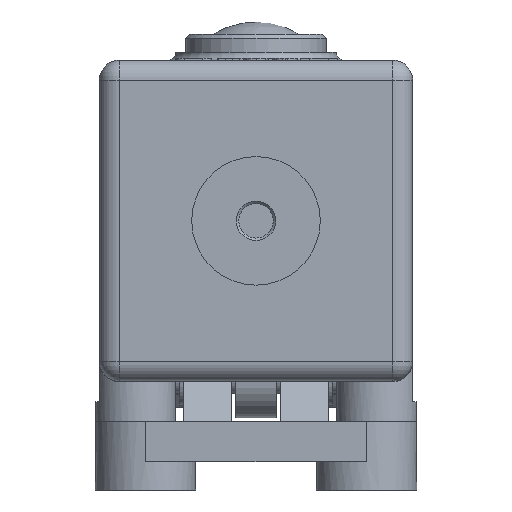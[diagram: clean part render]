
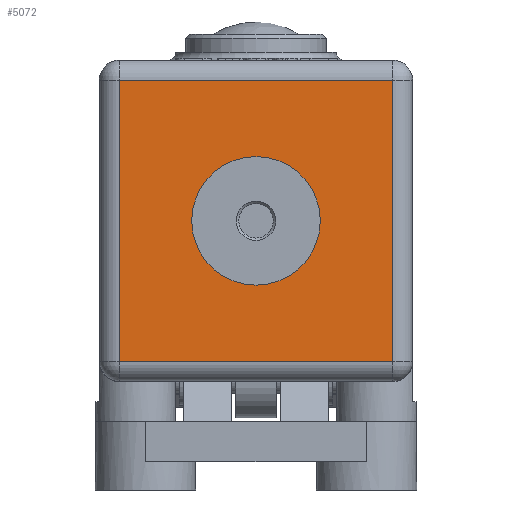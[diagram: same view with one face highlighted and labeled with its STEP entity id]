
A CAD part, front view. The second image highlights one B-rep face of the part: STEP entity #5072.
In plain terms, the highlighted planar face has unit normal (0, -1, 0).
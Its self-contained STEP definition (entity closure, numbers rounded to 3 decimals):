
#102=FACE_BOUND('',#908,.T.);
#327=PLANE('',#5503);
#593=FACE_OUTER_BOUND('',#907,.T.);
#907=EDGE_LOOP('',(#4295,#4296,#4297,#4298));
#908=EDGE_LOOP('',(#4299));
#1316=LINE('',#8772,#1738);
#1324=LINE('',#8847,#1746);
#1325=LINE('',#8849,#1747);
#1327=LINE('',#8852,#1749);
#1738=VECTOR('',#6627,10.);
#1746=VECTOR('',#6701,10.);
#1747=VECTOR('',#6704,10.);
#1749=VECTOR('',#6708,10.);
#1906=CIRCLE('',#5426,16.);
#2335=VERTEX_POINT('',#8549);
#2373=VERTEX_POINT('',#8733);
#2376=VERTEX_POINT('',#8754);
#2378=VERTEX_POINT('',#8775);
#2382=VERTEX_POINT('',#8801);
#2959=EDGE_CURVE('',#2335,#2335,#1906,.T.);
#3015=EDGE_CURVE('',#2373,#2376,#1316,.T.);
#3043=EDGE_CURVE('',#2376,#2382,#1324,.T.);
#3044=EDGE_CURVE('',#2382,#2378,#1325,.T.);
#3046=EDGE_CURVE('',#2378,#2373,#1327,.T.);
#4295=ORIENTED_EDGE('',*,*,#3015,.F.);
#4296=ORIENTED_EDGE('',*,*,#3046,.F.);
#4297=ORIENTED_EDGE('',*,*,#3044,.F.);
#4298=ORIENTED_EDGE('',*,*,#3043,.F.);
#4299=ORIENTED_EDGE('',*,*,#2959,.T.);
#5072=ADVANCED_FACE('',(#593,#102),#327,.F.);
#5426=AXIS2_PLACEMENT_3D('',#8551,#6519,#6520);
#5503=AXIS2_PLACEMENT_3D('',#8853,#6709,#6710);
#6519=DIRECTION('center_axis',(0.,1.,0.));
#6520=DIRECTION('ref_axis',(0.,0.,-1.));
#6627=DIRECTION('',(-1.,0.,0.));
#6701=DIRECTION('',(0.,0.,1.));
#6704=DIRECTION('',(1.,0.,0.));
#6708=DIRECTION('',(0.,0.,-1.));
#6709=DIRECTION('center_axis',(0.,1.,0.));
#6710=DIRECTION('ref_axis',(0.,0.,-1.));
#8549=CARTESIAN_POINT('',(-30.063,-111.419,24.75));
#8551=CARTESIAN_POINT('Origin',(-30.063,-111.419,8.75));
#8733=CARTESIAN_POINT('',(3.937,-111.419,-26.25));
#8754=CARTESIAN_POINT('',(-64.063,-111.419,-26.25));
#8772=CARTESIAN_POINT('',(-49.563,-111.419,-26.25));
#8775=CARTESIAN_POINT('',(3.937,-111.419,43.75));
#8801=CARTESIAN_POINT('',(-64.063,-111.419,43.75));
#8847=CARTESIAN_POINT('',(-64.063,-111.419,-13.75));
#8849=CARTESIAN_POINT('',(-10.563,-111.419,43.75));
#8852=CARTESIAN_POINT('',(3.937,-111.419,-13.75));
#8853=CARTESIAN_POINT('Origin',(-30.063,-111.419,8.75));
